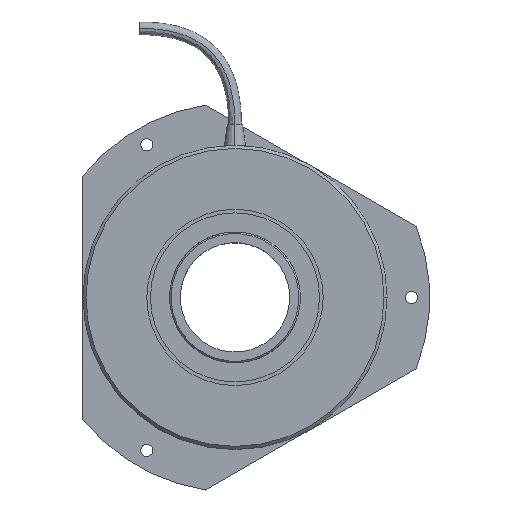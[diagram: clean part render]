
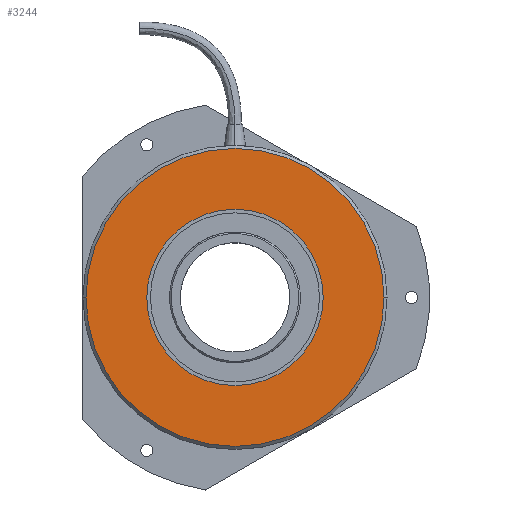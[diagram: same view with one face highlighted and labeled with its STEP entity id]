
A CAD part, top view. The second image highlights one B-rep face of the part: STEP entity #3244.
In plain terms, the highlighted planar face has unit normal (0, 0, 1).
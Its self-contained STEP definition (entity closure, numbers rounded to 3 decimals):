
#17 = CIRCLE ( 'NONE', #2176, 49. ) ;
#185 = EDGE_LOOP ( 'NONE', ( #2218, #891 ) ) ;
#314 = DIRECTION ( 'NONE',  ( 0., 0., 1. ) ) ;
#319 = DIRECTION ( 'NONE',  ( 0., 0., 1. ) ) ;
#467 = EDGE_CURVE ( 'NONE', #755, #4070, #3137, .T. ) ;
#621 = DIRECTION ( 'NONE',  ( 1., 0., 0. ) ) ;
#683 = DIRECTION ( 'NONE',  ( 0., 0., 1. ) ) ;
#707 = DIRECTION ( 'NONE',  ( 1., 0., 0. ) ) ;
#709 = CARTESIAN_POINT ( 'NONE',  ( -49., 0., 22. ) ) ;
#755 = VERTEX_POINT ( 'NONE', #4163 ) ;
#798 = ORIENTED_EDGE ( 'NONE', *, *, #467, .F. ) ;
#868 = CIRCLE ( 'NONE', #3303, 29. ) ;
#891 = ORIENTED_EDGE ( 'NONE', *, *, #2271, .T. ) ;
#1284 = DIRECTION ( 'NONE',  ( 0., 0., 1. ) ) ;
#1342 = FACE_OUTER_BOUND ( 'NONE', #185, .T. ) ;
#1693 = EDGE_LOOP ( 'NONE', ( #3660, #798 ) ) ;
#1748 = AXIS2_PLACEMENT_3D ( 'NONE', #3314, #314, #621 ) ;
#1803 = AXIS2_PLACEMENT_3D ( 'NONE', #3299, #2291, #3045 ) ;
#1988 = PLANE ( 'NONE',  #2187 ) ;
#2176 = AXIS2_PLACEMENT_3D ( 'NONE', #2355, #683, #2943 ) ;
#2187 = AXIS2_PLACEMENT_3D ( 'NONE', #3283, #1284, #3978 ) ;
#2218 = ORIENTED_EDGE ( 'NONE', *, *, #2325, .T. ) ;
#2238 = CIRCLE ( 'NONE', #1748, 49. ) ;
#2271 = EDGE_CURVE ( 'NONE', #4049, #3394, #17, .T. ) ;
#2291 = DIRECTION ( 'NONE',  ( 0., 0., 1. ) ) ;
#2301 = FACE_BOUND ( 'NONE', #1693, .T. ) ;
#2325 = EDGE_CURVE ( 'NONE', #3394, #4049, #2238, .T. ) ;
#2355 = CARTESIAN_POINT ( 'NONE',  ( 0., 0., 22. ) ) ;
#2638 = CARTESIAN_POINT ( 'NONE',  ( 0., 0., 22. ) ) ;
#2943 = DIRECTION ( 'NONE',  ( 1., 0., 0. ) ) ;
#3045 = DIRECTION ( 'NONE',  ( 1., 0., 0. ) ) ;
#3137 = CIRCLE ( 'NONE', #1803, 29. ) ;
#3244 = ADVANCED_FACE ( 'NONE', ( #2301, #1342 ), #1988, .T. ) ;
#3283 = CARTESIAN_POINT ( 'NONE',  ( 0., 0., 22. ) ) ;
#3299 = CARTESIAN_POINT ( 'NONE',  ( 0., 0., 22. ) ) ;
#3303 = AXIS2_PLACEMENT_3D ( 'NONE', #2638, #319, #707 ) ;
#3314 = CARTESIAN_POINT ( 'NONE',  ( 0., 0., 22. ) ) ;
#3394 = VERTEX_POINT ( 'NONE', #709 ) ;
#3605 = CARTESIAN_POINT ( 'NONE',  ( 49., 0., 22. ) ) ;
#3660 = ORIENTED_EDGE ( 'NONE', *, *, #4106, .F. ) ;
#3978 = DIRECTION ( 'NONE',  ( 1., 0., 0. ) ) ;
#4049 = VERTEX_POINT ( 'NONE', #3605 ) ;
#4070 = VERTEX_POINT ( 'NONE', #4231 ) ;
#4106 = EDGE_CURVE ( 'NONE', #4070, #755, #868, .T. ) ;
#4163 = CARTESIAN_POINT ( 'NONE',  ( -29., 0., 22. ) ) ;
#4231 = CARTESIAN_POINT ( 'NONE',  ( 29., 0., 22. ) ) ;
